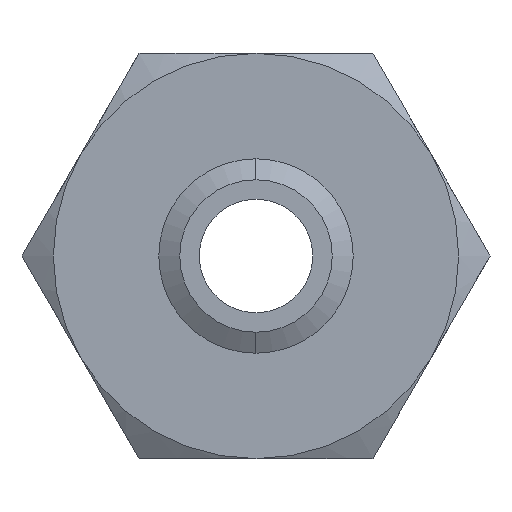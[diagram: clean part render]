
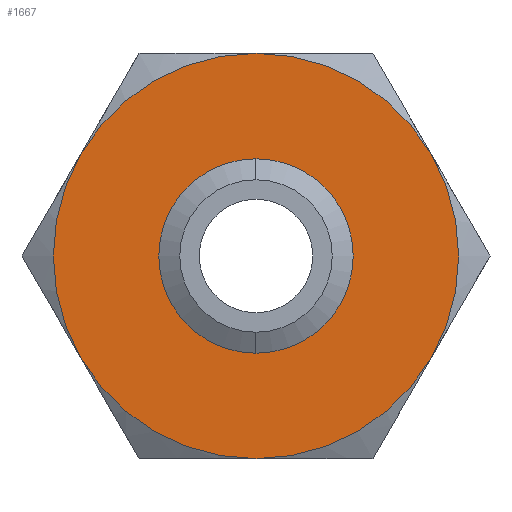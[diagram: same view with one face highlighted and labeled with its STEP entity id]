
A CAD part, front view. The second image highlights one B-rep face of the part: STEP entity #1667.
In plain terms, the highlighted planar face has unit normal (0, -1, 0).
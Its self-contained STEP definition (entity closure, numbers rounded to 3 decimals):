
#306 = DIRECTION ( 'NONE',  ( 0., 0., -1. ) ) ;
#307 = DIRECTION ( 'NONE',  ( 0., -1., 0. ) ) ;
#308 = CARTESIAN_POINT ( 'NONE',  ( 0., 0., 0. ) ) ;
#309 = AXIS2_PLACEMENT_3D ( 'NONE', #308, #307, #306 ) ;
#310 = CIRCLE ( 'NONE', #309, 9.402 ) ;
#340 = CARTESIAN_POINT ( 'NONE',  ( 21.651, 0., -12.5 ) ) ;
#349 = DIRECTION ( 'NONE',  ( 0., 0., 1. ) ) ;
#350 = DIRECTION ( 'NONE',  ( 0., 1., 0. ) ) ;
#351 = CARTESIAN_POINT ( 'NONE',  ( 0., 0., 0. ) ) ;
#352 = AXIS2_PLACEMENT_3D ( 'NONE', #351, #350, #349 ) ;
#353 = CIRCLE ( 'NONE', #352, 25. ) ;
#360 = DIRECTION ( 'NONE',  ( 0., 0., 1. ) ) ;
#361 = DIRECTION ( 'NONE',  ( 0., 1., 0. ) ) ;
#362 = AXIS2_PLACEMENT_3D ( 'NONE', #367, #361, #360 ) ;
#363 = CIRCLE ( 'NONE', #362, 25. ) ;
#367 = CARTESIAN_POINT ( 'NONE',  ( 0., 0., 0. ) ) ;
#659 = DIRECTION ( 'NONE',  ( 0., 0., 1. ) ) ;
#660 = DIRECTION ( 'NONE',  ( 0., 1., 0. ) ) ;
#661 = CARTESIAN_POINT ( 'NONE',  ( 14.434, 0., -25. ) ) ;
#665 = AXIS2_PLACEMENT_3D ( 'NONE', #661, #660, #659 ) ;
#666 = PLANE ( 'NONE',  #665 ) ;
#667 = FACE_BOUND ( 'NONE', #1536, .T. ) ;
#668 = FACE_OUTER_BOUND ( 'NONE', #1785, .T. ) ;
#670 = DIRECTION ( 'NONE',  ( 0., 0., 1. ) ) ;
#671 = DIRECTION ( 'NONE',  ( 0., 1., 0. ) ) ;
#672 = CARTESIAN_POINT ( 'NONE',  ( 0., 0., 0. ) ) ;
#673 = AXIS2_PLACEMENT_3D ( 'NONE', #672, #671, #670 ) ;
#674 = CIRCLE ( 'NONE', #673, 25. ) ;
#684 = CARTESIAN_POINT ( 'NONE',  ( 0., 0., -25. ) ) ;
#685 = CARTESIAN_POINT ( 'NONE',  ( -21.651, 0., -12.5 ) ) ;
#723 = CARTESIAN_POINT ( 'NONE',  ( 0., 0., 25. ) ) ;
#848 = CIRCLE ( 'NONE', #909, 25. ) ;
#889 = DIRECTION ( 'NONE',  ( 0., 0., 1. ) ) ;
#890 = DIRECTION ( 'NONE',  ( 0., 1., 0. ) ) ;
#891 = CARTESIAN_POINT ( 'NONE',  ( 0., 0., 0. ) ) ;
#892 = AXIS2_PLACEMENT_3D ( 'NONE', #891, #890, #889 ) ;
#893 = CIRCLE ( 'NONE', #892, 25. ) ;
#898 = DIRECTION ( 'NONE',  ( 0., 0., 1. ) ) ;
#899 = DIRECTION ( 'NONE',  ( 0., 1., 0. ) ) ;
#900 = CARTESIAN_POINT ( 'NONE',  ( 0., 0., 0. ) ) ;
#901 = AXIS2_PLACEMENT_3D ( 'NONE', #900, #899, #898 ) ;
#902 = CIRCLE ( 'NONE', #901, 25. ) ;
#903 = CARTESIAN_POINT ( 'NONE',  ( -21.651, 0., 12.5 ) ) ;
#905 = CARTESIAN_POINT ( 'NONE',  ( 21.651, 0., 12.5 ) ) ;
#906 = DIRECTION ( 'NONE',  ( 0., 0., 1. ) ) ;
#907 = DIRECTION ( 'NONE',  ( 0., 1., 0. ) ) ;
#908 = CARTESIAN_POINT ( 'NONE',  ( 0., 0., 0. ) ) ;
#909 = AXIS2_PLACEMENT_3D ( 'NONE', #908, #907, #906 ) ;
#1318 = DIRECTION ( 'NONE',  ( 0., 0., -1. ) ) ;
#1319 = DIRECTION ( 'NONE',  ( 0., -1., 0. ) ) ;
#1320 = CARTESIAN_POINT ( 'NONE',  ( 0., 0., 0. ) ) ;
#1321 = AXIS2_PLACEMENT_3D ( 'NONE', #1320, #1319, #1318 ) ;
#1322 = CIRCLE ( 'NONE', #1321, 9.402 ) ;
#1329 = CARTESIAN_POINT ( 'NONE',  ( 0., 0., -9.402 ) ) ;
#1341 = CARTESIAN_POINT ( 'NONE',  ( 0., 0., 9.402 ) ) ;
#1522 = ORIENTED_EDGE ( 'NONE', *, *, #1534, .F. ) ;
#1526 = EDGE_CURVE ( 'NONE', #2033, #2004, #310, .T. ) ;
#1527 = ORIENTED_EDGE ( 'NONE', *, *, #2011, .F. ) ;
#1529 = ORIENTED_EDGE ( 'NONE', *, *, #1526, .F. ) ;
#1531 = EDGE_CURVE ( 'NONE', #1537, #1660, #363, .T. ) ;
#1534 = EDGE_CURVE ( 'NONE', #1786, #1537, #353, .T. ) ;
#1536 = EDGE_LOOP ( 'NONE', ( #1527, #1529 ) ) ;
#1537 = VERTEX_POINT ( 'NONE', #340 ) ;
#1657 = ORIENTED_EDGE ( 'NONE', *, *, #1665, .F. ) ;
#1658 = ORIENTED_EDGE ( 'NONE', *, *, #1531, .F. ) ;
#1659 = VERTEX_POINT ( 'NONE', #685 ) ;
#1660 = VERTEX_POINT ( 'NONE', #684 ) ;
#1665 = EDGE_CURVE ( 'NONE', #1660, #1659, #674, .T. ) ;
#1667 = ADVANCED_FACE ( 'NONE', ( #668, #667 ), #666, .F. ) ;
#1672 = VERTEX_POINT ( 'NONE', #723 ) ;
#1782 = EDGE_CURVE ( 'NONE', #1672, #1786, #848, .T. ) ;
#1783 = ORIENTED_EDGE ( 'NONE', *, *, #1782, .F. ) ;
#1785 = EDGE_LOOP ( 'NONE', ( #1783, #1787, #1792, #1657, #1658, #1522 ) ) ;
#1786 = VERTEX_POINT ( 'NONE', #905 ) ;
#1787 = ORIENTED_EDGE ( 'NONE', *, *, #1795, .F. ) ;
#1790 = VERTEX_POINT ( 'NONE', #903 ) ;
#1791 = EDGE_CURVE ( 'NONE', #1659, #1790, #902, .T. ) ;
#1792 = ORIENTED_EDGE ( 'NONE', *, *, #1791, .F. ) ;
#1795 = EDGE_CURVE ( 'NONE', #1790, #1672, #893, .T. ) ;
#2004 = VERTEX_POINT ( 'NONE', #1329 ) ;
#2011 = EDGE_CURVE ( 'NONE', #2004, #2033, #1322, .T. ) ;
#2033 = VERTEX_POINT ( 'NONE', #1341 ) ;
